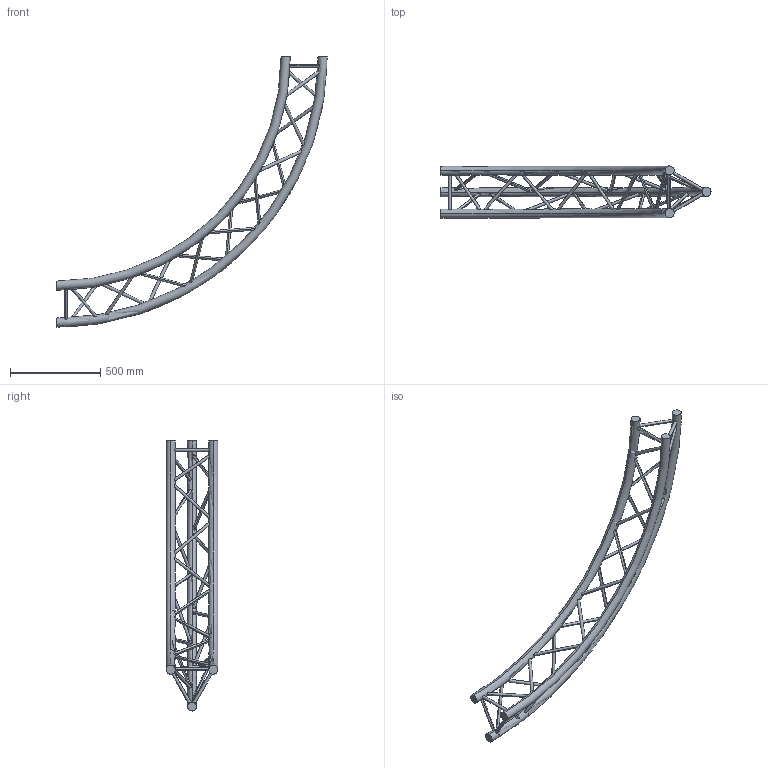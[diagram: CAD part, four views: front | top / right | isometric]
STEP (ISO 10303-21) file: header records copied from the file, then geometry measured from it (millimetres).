
FILE_DESCRIPTION (( 'STEP AP203' ), '1' );
FILE_NAME ('SXC29300PE.STEP', '2009-10-21T09:35:30', ( 'CEDIA' ), ( 'CEDIA INDUSTRIE' ), 'SwSTEP 2.0', 'SolidWorks 2009', '' );
FILE_SCHEMA (( 'CONFIG_CONTROL_DESIGN' ));
Length unit declared in the file: millimetre
Products named in the file (1): SXC29300PE
Bounding box: 1500 x 287 x 1500 mm (x, y, z)
Volume: 13993285.6 mm3; surface area: 1389219.8 mm2
Topology: 1 solids, 1 shells, 78 faces, 216 edges, 144 vertices
Faces by surface type: cylinder 66, torus 6, plane 6
Entity records: 8533 total; most frequent: CARTESIAN_POINT 6577, ORIENTED_EDGE 432, DIRECTION 260, EDGE_CURVE 216, VERTEX_POINT 144, EDGE_LOOP 144, B_SPLINE_CURVE_WITH_KNOTS 132, AXIS2_PLACEMENT_3D 97
